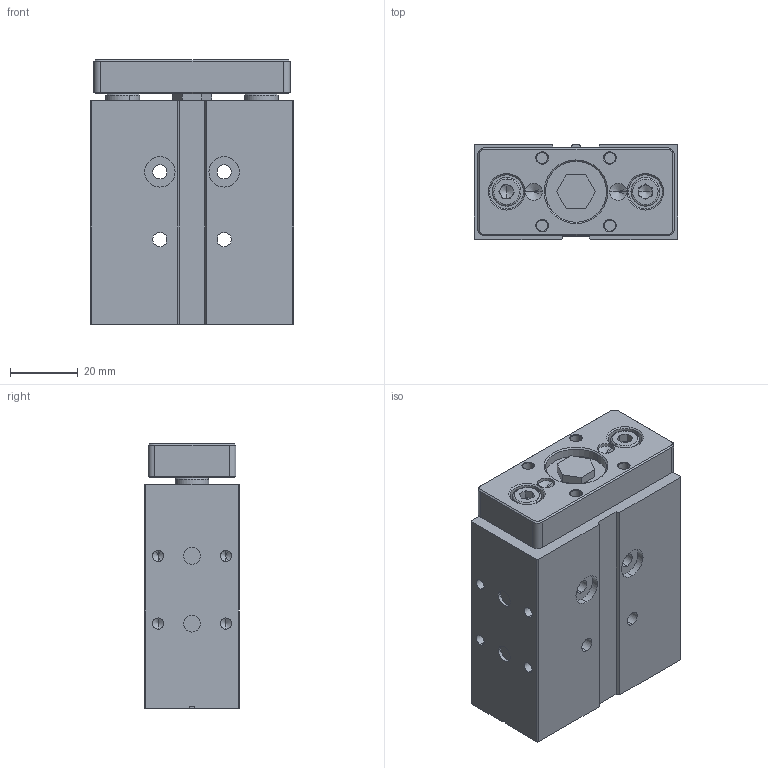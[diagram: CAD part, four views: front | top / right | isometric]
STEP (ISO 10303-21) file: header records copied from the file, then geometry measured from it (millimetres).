
FILE_DESCRIPTION (( 'STEP AP214' ), '1' );
FILE_NAME ('WGC-B-012-0030 (3D).STEP', '2018-10-23T15:20:46', ( 'Hidtek' ), ( '' ), 'SwSTEP 2.0', 'SolidWorks 2016', '' );
FILE_SCHEMA (( 'AUTOMOTIVE_DESIGN' ));
Length unit declared in the file: millimetre
Products named in the file (3): Group2^WGC-B-012-0030 (3D); WGC-B-012-0030 (3D); Group1^WGC-B-012-0030 (3D)
Assembly tree (2 placements, depth 2):
  WGC-B-012-0030 (3D)
    Group1^WGC-B-012-0030 (3D)
    Group2^WGC-B-012-0030 (3D)
Bounding box: 60 x 28 x 78.1 mm (x, y, z)
Volume: 111443.7 mm3; surface area: 38258.1 mm2
Topology: 11 solids, 11 shells, 626 faces, 1584 edges, 1007 vertices
Faces by surface type: plane 297, cylinder 155, bspline 96, cone 78
Entity records: 26073 total; most frequent: CARTESIAN_POINT 9324, ORIENTED_EDGE 3108, DIRECTION 2760, EDGE_CURVE 1554, VERTEX_POINT 1007, VECTOR 962, LINE 962, AXIS2_PLACEMENT_3D 899
